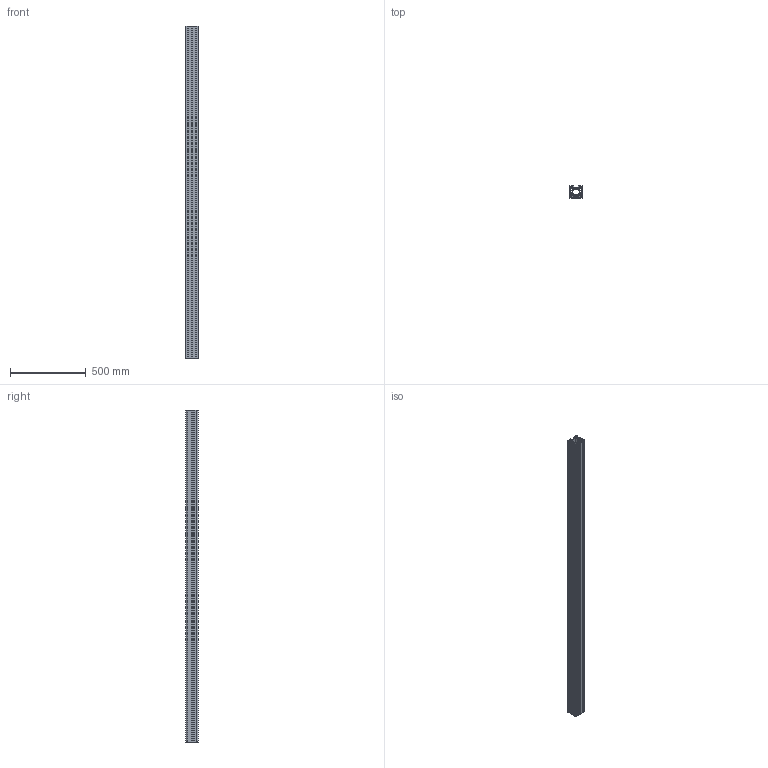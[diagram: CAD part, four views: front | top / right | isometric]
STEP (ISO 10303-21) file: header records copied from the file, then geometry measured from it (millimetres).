
FILE_DESCRIPTION (( 'STEP AP203' ), '1' );
FILE_NAME ('_-_MLF 4 2198 mm lang.step', '2005-09-01T12:46:33', ( ' ' ), ( ' ' ), 'SwSTEP 2.0', 'SolidWorks 2005187', '' );
FILE_SCHEMA (( 'CONFIG_CONTROL_DESIGN' ));
Length unit declared in the file: millimetre
Products named in the file (1): _-_MLF 4  2198 mm lang
Bounding box: 87.6 x 80 x 2198 mm (x, y, z)
Volume: 5064361.8 mm3; surface area: 2716131.5 mm2
Topology: 1 solids, 1 shells, 248 faces, 762 edges, 500 vertices
Faces by surface type: plane 174, cylinder 74
Entity records: 8575 total; most frequent: ORIENTED_EDGE 1524, CARTESIAN_POINT 1511, DIRECTION 1408, EDGE_CURVE 762, VECTOR 614, LINE 614, VERTEX_POINT 500, AXIS2_PLACEMENT_3D 397
